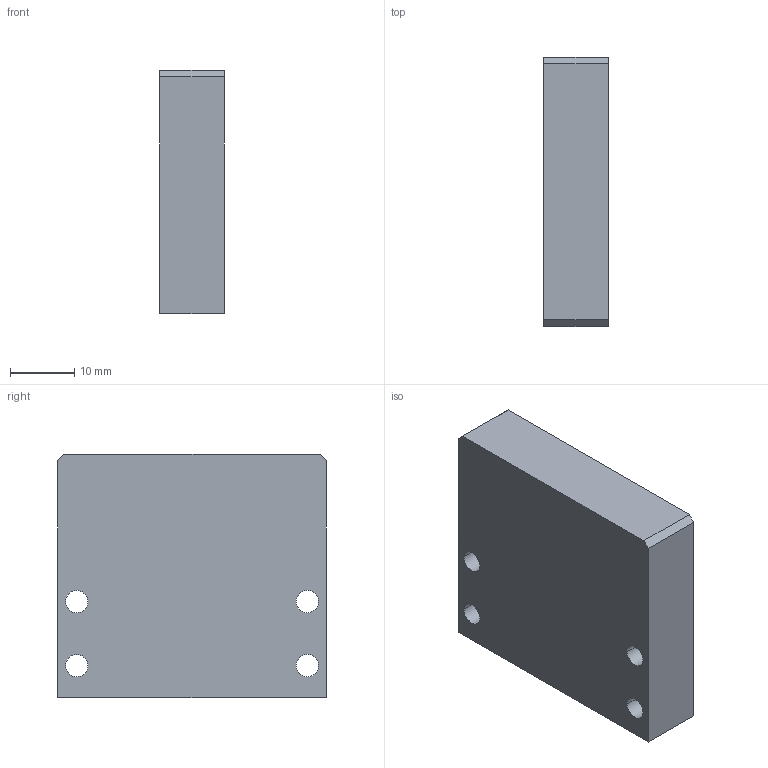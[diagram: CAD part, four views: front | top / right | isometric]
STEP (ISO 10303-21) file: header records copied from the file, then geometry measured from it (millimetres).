
FILE_DESCRIPTION(('CATIA V5 STEP Exchange'),'2;1');
FILE_NAME('C:\Users\hh\Desktop\AGZ102\AGZ102.02_V1.stp','2023-09-23T05:32:02+00:00',('none'),('none'),'CATIA Version 5 Release 21 GA (IN-10)','CATIA V5 STEP AP214','none');
FILE_SCHEMA(('AUTOMOTIVE_DESIGN { 1 0 10303 214 1 1 1 1 }'));
Length unit declared in the file: millimetre
Products named in the file (1): 左挡板
Bounding box: 10 x 42 x 38 mm (x, y, z)
Volume: 15565.2 mm3; surface area: 5141.1 mm2
Topology: 1 solids, 1 shells, 16 faces, 42 edges, 28 vertices
Faces by surface type: cylinder 8, plane 8
Entity records: 504 total; most frequent: ORIENTED_EDGE 84, CARTESIAN_POINT 83, DIRECTION 66, EDGE_CURVE 42, AXIS2_PLACEMENT_3D 29, VERTEX_POINT 28, VECTOR 26, LINE 26
